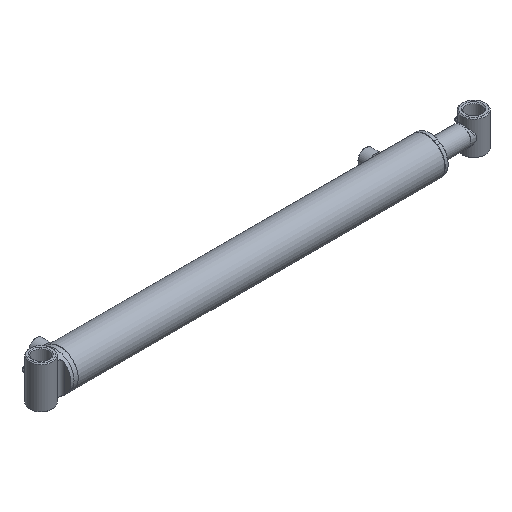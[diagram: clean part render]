
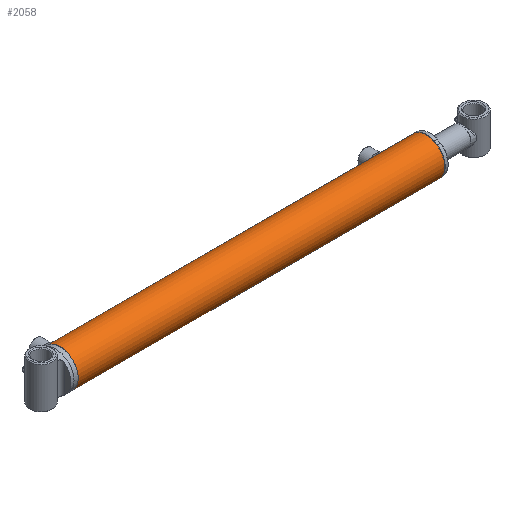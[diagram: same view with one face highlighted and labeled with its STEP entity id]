
A CAD part, isometric view. The second image highlights one B-rep face of the part: STEP entity #2058.
In plain terms, the highlighted cylindrical face has radius 30.163 mm (diameter 60.325 mm), a full revolution.
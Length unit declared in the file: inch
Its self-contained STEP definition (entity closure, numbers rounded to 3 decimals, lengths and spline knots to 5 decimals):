
#377=FACE_BOUND('',#700,.T.);
#378=FACE_BOUND('',#701,.T.);
#379=FACE_BOUND('',#702,.T.);
#500=FACE_OUTER_BOUND('',#699,.T.);
#699=EDGE_LOOP('',(#1636));
#700=EDGE_LOOP('',(#1637));
#701=EDGE_LOOP('',(#1638));
#702=EDGE_LOOP('',(#1639));
#908=CIRCLE('',#2250,1.1875);
#912=CIRCLE('',#2258,1.1875);
#1027=B_SPLINE_CURVE_WITH_KNOTS('',3,(#4719,#4720,#4721,#4722,#4723,#4724,
#4725,#4726,#4727,#4728,#4729,#4730,#4731,#4732,#4733,#4734,#4735,#4736,
#4737,#4738,#4739,#4740,#4741,#4742,#4743,#4744,#4745,#4746,#4747,#4748,
#4749,#4750,#4751,#4752),.UNSPECIFIED.,.T.,.F.,(4,2,2,2,2,2,2,2,2,2,2,2,
2,2,2,2,4),(0.,0.18872,0.37744,0.56616,0.75487,
0.94359,1.1323,1.32102,1.50975,1.69847,
1.88719,2.0759,2.26462,2.45333,2.64205,
2.83077,3.01949),.UNSPECIFIED.);
#1029=B_SPLINE_CURVE_WITH_KNOTS('',3,(#4922,#4923,#4924,#4925,#4926,#4927,
#4928,#4929,#4930,#4931,#4932,#4933,#4934,#4935,#4936,#4937,#4938,#4939,
#4940,#4941,#4942,#4943,#4944,#4945,#4946,#4947,#4948,#4949,#4950,#4951,
#4952,#4953,#4954,#4955),.UNSPECIFIED.,.T.,.F.,(4,2,2,2,2,2,2,2,2,2,2,2,
2,2,2,2,4),(0.,0.18872,0.37744,0.56616,0.75487,
0.94359,1.1323,1.32102,1.50975,1.69847,
1.88719,2.0759,2.26462,2.45333,2.64205,
2.83077,3.01949),.UNSPECIFIED.);
#1098=VERTEX_POINT('',#4718);
#1100=VERTEX_POINT('',#4921);
#1104=VERTEX_POINT('',#4965);
#1108=VERTEX_POINT('',#4977);
#1303=EDGE_CURVE('',#1098,#1098,#1027,.T.);
#1306=EDGE_CURVE('',#1100,#1100,#1029,.T.);
#1310=EDGE_CURVE('',#1104,#1104,#908,.T.);
#1314=EDGE_CURVE('',#1108,#1108,#912,.T.);
#1636=ORIENTED_EDGE('',*,*,#1314,.T.);
#1637=ORIENTED_EDGE('',*,*,#1303,.T.);
#1638=ORIENTED_EDGE('',*,*,#1306,.T.);
#1639=ORIENTED_EDGE('',*,*,#1310,.F.);
#1980=CYLINDRICAL_SURFACE('',#2260,1.1875);
#2058=ADVANCED_FACE('',(#500,#377,#378,#379),#1980,.T.);
#2250=AXIS2_PLACEMENT_3D('',#4966,#2627,#2628);
#2258=AXIS2_PLACEMENT_3D('',#4978,#2643,#2644);
#2260=AXIS2_PLACEMENT_3D('',#4980,#2647,#2648);
#2627=DIRECTION('center_axis',(1.,0.,0.));
#2628=DIRECTION('ref_axis',(0.,-1.,0.));
#2643=DIRECTION('center_axis',(1.,0.,0.));
#2644=DIRECTION('ref_axis',(0.,-1.,0.));
#2647=DIRECTION('center_axis',(1.,0.,0.));
#2648=DIRECTION('ref_axis',(0.,-1.,0.));
#4718=CARTESIAN_POINT('',(9.94094,1.17107,-0.19685));
#4719=CARTESIAN_POINT('Ctrl Pts',(9.94094,1.17107,-0.19685));
#4720=CARTESIAN_POINT('Ctrl Pts',(9.96571,1.17107,-0.19685));
#4721=CARTESIAN_POINT('Ctrl Pts',(9.9921,1.17194,-0.19189));
#4722=CARTESIAN_POINT('Ctrl Pts',(10.04058,1.17505,-0.17179));
#4723=CARTESIAN_POINT('Ctrl Pts',(10.06269,1.17725,-0.15665));
#4724=CARTESIAN_POINT('Ctrl Pts',(10.09759,1.18137,-0.12174));
#4725=CARTESIAN_POINT('Ctrl Pts',(10.11273,1.18356,-0.09964));
#4726=CARTESIAN_POINT('Ctrl Pts',(10.13284,1.18665,-0.05115));
#4727=CARTESIAN_POINT('Ctrl Pts',(10.1378,1.1875,-0.02477));
#4728=CARTESIAN_POINT('Ctrl Pts',(10.1378,1.1875,0.02477));
#4729=CARTESIAN_POINT('Ctrl Pts',(10.13284,1.18665,0.05115));
#4730=CARTESIAN_POINT('Ctrl Pts',(10.11273,1.18356,0.09964));
#4731=CARTESIAN_POINT('Ctrl Pts',(10.09759,1.18137,0.12174));
#4732=CARTESIAN_POINT('Ctrl Pts',(10.06269,1.17725,0.15665));
#4733=CARTESIAN_POINT('Ctrl Pts',(10.04058,1.17505,0.17179));
#4734=CARTESIAN_POINT('Ctrl Pts',(9.9921,1.17194,0.19189));
#4735=CARTESIAN_POINT('Ctrl Pts',(9.96571,1.17107,0.19685));
#4736=CARTESIAN_POINT('Ctrl Pts',(9.91618,1.17107,0.19685));
#4737=CARTESIAN_POINT('Ctrl Pts',(9.88979,1.17194,0.19189));
#4738=CARTESIAN_POINT('Ctrl Pts',(9.84131,1.17505,0.17179));
#4739=CARTESIAN_POINT('Ctrl Pts',(9.8192,1.17725,0.15665));
#4740=CARTESIAN_POINT('Ctrl Pts',(9.7843,1.18137,0.12174));
#4741=CARTESIAN_POINT('Ctrl Pts',(9.76916,1.18356,0.09964));
#4742=CARTESIAN_POINT('Ctrl Pts',(9.74905,1.18665,0.05115));
#4743=CARTESIAN_POINT('Ctrl Pts',(9.74409,1.1875,0.02477));
#4744=CARTESIAN_POINT('Ctrl Pts',(9.74409,1.1875,-0.02477));
#4745=CARTESIAN_POINT('Ctrl Pts',(9.74905,1.18665,-0.05115));
#4746=CARTESIAN_POINT('Ctrl Pts',(9.76916,1.18356,-0.09964));
#4747=CARTESIAN_POINT('Ctrl Pts',(9.7843,1.18137,-0.12174));
#4748=CARTESIAN_POINT('Ctrl Pts',(9.8192,1.17725,-0.15665));
#4749=CARTESIAN_POINT('Ctrl Pts',(9.84131,1.17505,-0.17179));
#4750=CARTESIAN_POINT('Ctrl Pts',(9.88979,1.17194,-0.19189));
#4751=CARTESIAN_POINT('Ctrl Pts',(9.91618,1.17107,-0.19685));
#4752=CARTESIAN_POINT('Ctrl Pts',(9.94094,1.17107,-0.19685));
#4921=CARTESIAN_POINT('',(-11.35827,1.17107,-0.19685));
#4922=CARTESIAN_POINT('Ctrl Pts',(-11.35827,1.17107,-0.19685));
#4923=CARTESIAN_POINT('Ctrl Pts',(-11.3335,1.17107,-0.19685));
#4924=CARTESIAN_POINT('Ctrl Pts',(-11.30712,1.17194,-0.19189));
#4925=CARTESIAN_POINT('Ctrl Pts',(-11.25863,1.17505,-0.17179));
#4926=CARTESIAN_POINT('Ctrl Pts',(-11.23653,1.17725,-0.15665));
#4927=CARTESIAN_POINT('Ctrl Pts',(-11.20162,1.18137,-0.12174));
#4928=CARTESIAN_POINT('Ctrl Pts',(-11.18648,1.18356,-0.09964));
#4929=CARTESIAN_POINT('Ctrl Pts',(-11.16638,1.18665,-0.05115));
#4930=CARTESIAN_POINT('Ctrl Pts',(-11.16142,1.1875,-0.02477));
#4931=CARTESIAN_POINT('Ctrl Pts',(-11.16142,1.1875,0.02477));
#4932=CARTESIAN_POINT('Ctrl Pts',(-11.16638,1.18665,0.05115));
#4933=CARTESIAN_POINT('Ctrl Pts',(-11.18648,1.18356,0.09964));
#4934=CARTESIAN_POINT('Ctrl Pts',(-11.20162,1.18137,0.12174));
#4935=CARTESIAN_POINT('Ctrl Pts',(-11.23653,1.17725,0.15665));
#4936=CARTESIAN_POINT('Ctrl Pts',(-11.25863,1.17505,0.17179));
#4937=CARTESIAN_POINT('Ctrl Pts',(-11.30712,1.17194,0.19189));
#4938=CARTESIAN_POINT('Ctrl Pts',(-11.3335,1.17107,0.19685));
#4939=CARTESIAN_POINT('Ctrl Pts',(-11.38303,1.17107,0.19685));
#4940=CARTESIAN_POINT('Ctrl Pts',(-11.40942,1.17194,0.19189));
#4941=CARTESIAN_POINT('Ctrl Pts',(-11.45791,1.17505,0.17179));
#4942=CARTESIAN_POINT('Ctrl Pts',(-11.48001,1.17725,0.15665));
#4943=CARTESIAN_POINT('Ctrl Pts',(-11.51491,1.18137,0.12174));
#4944=CARTESIAN_POINT('Ctrl Pts',(-11.53006,1.18356,0.09964));
#4945=CARTESIAN_POINT('Ctrl Pts',(-11.55016,1.18665,0.05115));
#4946=CARTESIAN_POINT('Ctrl Pts',(-11.55512,1.1875,0.02477));
#4947=CARTESIAN_POINT('Ctrl Pts',(-11.55512,1.1875,-0.02477));
#4948=CARTESIAN_POINT('Ctrl Pts',(-11.55016,1.18665,-0.05115));
#4949=CARTESIAN_POINT('Ctrl Pts',(-11.53006,1.18356,-0.09964));
#4950=CARTESIAN_POINT('Ctrl Pts',(-11.51491,1.18137,-0.12174));
#4951=CARTESIAN_POINT('Ctrl Pts',(-11.48001,1.17725,-0.15665));
#4952=CARTESIAN_POINT('Ctrl Pts',(-11.45791,1.17505,-0.17179));
#4953=CARTESIAN_POINT('Ctrl Pts',(-11.40942,1.17194,-0.19189));
#4954=CARTESIAN_POINT('Ctrl Pts',(-11.38303,1.17107,-0.19685));
#4955=CARTESIAN_POINT('Ctrl Pts',(-11.35827,1.17107,-0.19685));
#4965=CARTESIAN_POINT('',(11.94882,1.1875,0.));
#4966=CARTESIAN_POINT('Origin',(11.94882,0.,0.));
#4977=CARTESIAN_POINT('',(-11.78494,1.1875,0.));
#4978=CARTESIAN_POINT('Origin',(-11.78494,0.,0.));
#4980=CARTESIAN_POINT('Origin',(0.,0.,0.));
